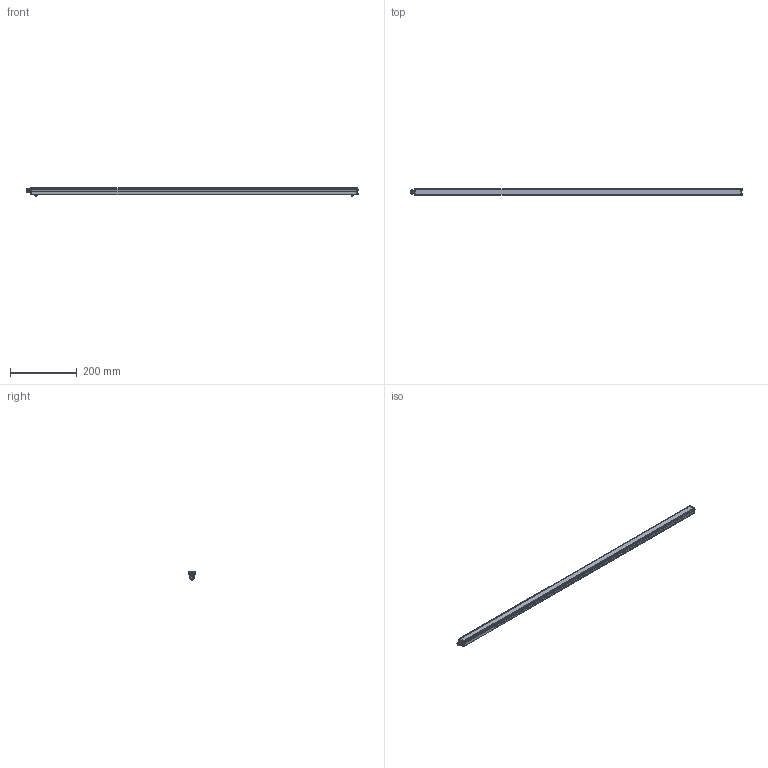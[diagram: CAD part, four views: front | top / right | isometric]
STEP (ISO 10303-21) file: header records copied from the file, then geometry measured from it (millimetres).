
FILE_DESCRIPTION (( 'STEP AP214' ), '1' );
FILE_NAME ('AL126 _NONSEALED__AL12638.stp', '2021-04-29T14:25:28', ( '' ), ( '' ), 'SwSTEP 2.0', 'SolidWorks 2018', '' );
FILE_SCHEMA (( 'AUTOMOTIVE_DESIGN' ));
Length unit declared in the file: inch
Products named in the file (15): 10mm Swish_Default<As Machined>; 093469_093469; 090875; 090889-XX_090889-38; AL126 _NONSEALED__AL12638; 093474_093474; HN-M4_90592A016; 090877-XX_090877-38; 10mm Label (116 126)_Default<As Machined>; 10mm Advanced illumination; 091064_Model_Dome Fittings_Thread Type and Size(Dome)_M10 x 1.5_Hazardous Location-Explosive Proof(ATEX and EExe Versions)_No_; 10mm Ai; 090876; 091052 (116 126); BH-M4x6
Assembly tree (24 placements, depth 3):
  AL126 _NONSEALED__AL12638
    090889-XX_090889-38
    090877-XX_090877-38
    090875
    090876
    093474_093474  x8
    093469_093469  x2
    091064_Model_Dome Fittings_Thread Type and Size(Dome)_M10 x 1.5_Hazardous Location-Explosive Proof(ATEX and EExe Versions)_No_
    HN-M4_90592A016  x2
    BH-M4x6  x2
    091052 (116 126)
      10mm Label (116 126)_Default<As Machined>
      10mm Ai
      10mm Swish_Default<As Machined>
      10mm Advanced illumination
Bounding box: 994.33 x 20.02 x 24.1 mm (x, y, z)
Volume: 133290.3 mm3; surface area: 189860 mm2
Topology: 48 solids, 48 shells, 1877 faces, 4840 edges, 3010 vertices
Faces by surface type: cylinder 934, plane 401, cone 362, bspline 120, torus 60
Entity records: 30293 total; most frequent: CARTESIAN_POINT 10456, ORIENTED_EDGE 4076, DIRECTION 3580, EDGE_CURVE 2038, VERTEX_POINT 1298, AXIS2_PLACEMENT_3D 1276, LINE 1028, VECTOR 1028
